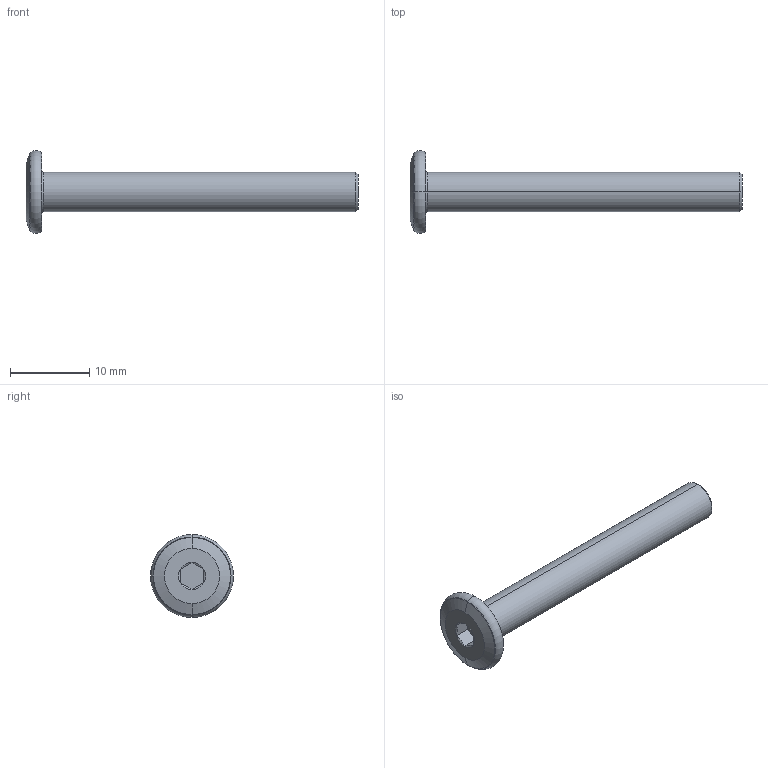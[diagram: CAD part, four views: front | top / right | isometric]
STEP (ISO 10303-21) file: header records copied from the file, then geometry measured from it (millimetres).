
FILE_DESCRIPTION (( 'STEP AP203' ), '1' );
FILE_NAME ('LGD-304D-M5x40.STEP', '2026-08-13T07:31:59', ( '' ), ( '' ), 'SwSTEP 2.0', 'SolidWorks 2020', '' );
FILE_SCHEMA (( 'CONFIG_CONTROL_DESIGN' ));
Length unit declared in the file: millimetre
Products named in the file (1): LGD-304D-M5x40
Bounding box: 42 x 10.5 x 10.5 mm (x, y, z)
Volume: 922 mm3; surface area: 852.5 mm2
Topology: 1 solids, 1 shells, 30 faces, 56 edges, 30 vertices
Faces by surface type: cone 10, plane 10, torus 8, cylinder 2
Entity records: 835 total; most frequent: CARTESIAN_POINT 151, DIRECTION 144, ORIENTED_EDGE 112, AXIS2_PLACEMENT_3D 63, EDGE_CURVE 56, CIRCLE 32, EDGE_LOOP 32, ADVANCED_FACE 30
